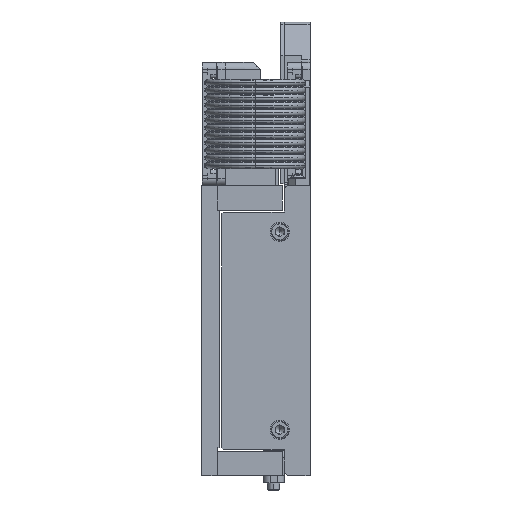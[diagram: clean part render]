
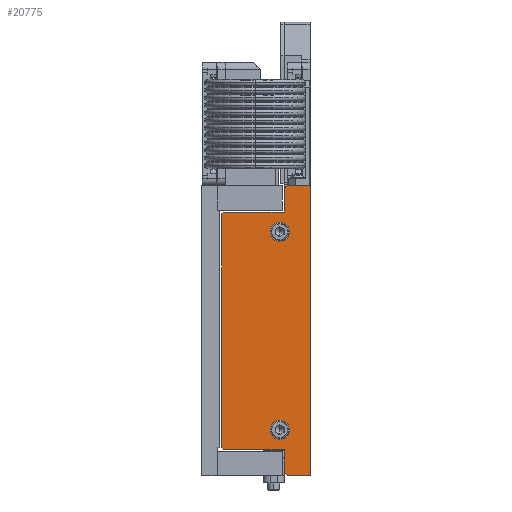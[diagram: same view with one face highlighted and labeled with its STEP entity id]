
A CAD part, left-side view. The second image highlights one B-rep face of the part: STEP entity #20775.
In plain terms, the highlighted planar face has unit normal (-1, 0, 0).
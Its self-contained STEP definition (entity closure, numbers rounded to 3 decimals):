
#3771 = CARTESIAN_POINT ( 'NONE',  ( -190., 49.5, -67.5 ) ) ;
#3835 = VECTOR ( 'NONE', #102717, 1000. ) ;
#4214 = EDGE_CURVE ( 'NONE', #57915, #60848, #41294, .T. ) ;
#4395 = EDGE_CURVE ( 'NONE', #97117, #28972, #5900, .T. ) ;
#5827 = LINE ( 'NONE', #94489, #105289 ) ;
#5900 = LINE ( 'NONE', #107159, #30515 ) ;
#6402 = DIRECTION ( 'NONE',  ( 0., 0., -1. ) ) ;
#6721 = DIRECTION ( 'NONE',  ( -1., 0., 0. ) ) ;
#7039 = CARTESIAN_POINT ( 'NONE',  ( -190., 49.5, 67.5 ) ) ;
#7810 = ORIENTED_EDGE ( 'NONE', *, *, #76760, .T. ) ;
#8677 = VECTOR ( 'NONE', #106838, 1000. ) ;
#9145 = CARTESIAN_POINT ( 'NONE',  ( -190., 50.5, -66.5 ) ) ;
#11874 = DIRECTION ( 'NONE',  ( -1., 0., 0. ) ) ;
#12170 = CARTESIAN_POINT ( 'NONE',  ( -190., 15., -80.55 ) ) ;
#12344 = DIRECTION ( 'NONE',  ( 0., -1., 0. ) ) ;
#12528 = AXIS2_PLACEMENT_3D ( 'NONE', #71352, #11874, #62998 ) ;
#12598 = LINE ( 'NONE', #3771, #90351 ) ;
#13195 = DIRECTION ( 'NONE',  ( 0., -1., 0. ) ) ;
#14566 = VERTEX_POINT ( 'NONE', #98406 ) ;
#14758 = DIRECTION ( 'NONE',  ( 1., 0., 0. ) ) ;
#15412 = CARTESIAN_POINT ( 'NONE',  ( -190., 15., 67.5 ) ) ;
#16903 = DIRECTION ( 'NONE',  ( 0., 0., -1. ) ) ;
#17272 = ORIENTED_EDGE ( 'NONE', *, *, #49519, .T. ) ;
#18380 = ORIENTED_EDGE ( 'NONE', *, *, #25438, .F. ) ;
#18697 = FACE_BOUND ( 'NONE', #63765, .T. ) ;
#18850 = EDGE_CURVE ( 'NONE', #14566, #41978, #87265, .T. ) ;
#20056 = AXIS2_PLACEMENT_3D ( 'NONE', #103120, #14758, #6402 ) ;
#20278 = EDGE_CURVE ( 'NONE', #87271, #53544, #51397, .T. ) ;
#20317 = DIRECTION ( 'NONE',  ( 0., 1., 0. ) ) ;
#20775 = ADVANCED_FACE ( 'NONE', ( #65101, #18697, #103143 ), #84176, .F. ) ;
#22226 = DIRECTION ( 'NONE',  ( -1., 0., 0. ) ) ;
#23133 = LINE ( 'NONE', #32467, #32670 ) ;
#23542 = AXIS2_PLACEMENT_3D ( 'NONE', #40646, #6721, #41008 ) ;
#24338 = ORIENTED_EDGE ( 'NONE', *, *, #26718, .T. ) ;
#25438 = EDGE_CURVE ( 'NONE', #60848, #57915, #97334, .T. ) ;
#26718 = EDGE_CURVE ( 'NONE', #95259, #97117, #5827, .T. ) ;
#28352 = VECTOR ( 'NONE', #16903, 1000. ) ;
#28972 = VERTEX_POINT ( 'NONE', #79094 ) ;
#30515 = VECTOR ( 'NONE', #20317, 1000. ) ;
#31028 = ORIENTED_EDGE ( 'NONE', *, *, #18850, .F. ) ;
#32467 = CARTESIAN_POINT ( 'NONE',  ( -190., 13.05, -82.5 ) ) ;
#32670 = VECTOR ( 'NONE', #75650, 1000. ) ;
#32907 = CARTESIAN_POINT ( 'NONE',  ( -190., 13.05, -82.5 ) ) ;
#33636 = CARTESIAN_POINT ( 'NONE',  ( -190., 15., 67.5 ) ) ;
#33887 = ORIENTED_EDGE ( 'NONE', *, *, #20278, .T. ) ;
#34139 = EDGE_CURVE ( 'NONE', #54776, #112602, #44132, .T. ) ;
#36387 = EDGE_LOOP ( 'NONE', ( #18380, #92319 ) ) ;
#36449 = CARTESIAN_POINT ( 'NONE',  ( -190., 15., -67.5 ) ) ;
#36537 = ORIENTED_EDGE ( 'NONE', *, *, #34139, .T. ) ;
#39874 = CARTESIAN_POINT ( 'NONE',  ( -190., 0.25, 82.5 ) ) ;
#40133 = EDGE_CURVE ( 'NONE', #62639, #95259, #63800, .T. ) ;
#40646 = CARTESIAN_POINT ( 'NONE',  ( -190., 17.5, 56.25 ) ) ;
#40873 = DIRECTION ( 'NONE',  ( 0., 0., 1. ) ) ;
#41008 = DIRECTION ( 'NONE',  ( 0., 0., 1. ) ) ;
#41294 = CIRCLE ( 'NONE', #42236, 5.5 ) ;
#41978 = VERTEX_POINT ( 'NONE', #63577 ) ;
#42173 = DIRECTION ( 'NONE',  ( 0., 0.707, -0.707 ) ) ;
#42236 = AXIS2_PLACEMENT_3D ( 'NONE', #93097, #22226, #40873 ) ;
#44132 = LINE ( 'NONE', #56189, #49616 ) ;
#44362 = ORIENTED_EDGE ( 'NONE', *, *, #49136, .F. ) ;
#47821 = AXIS2_PLACEMENT_3D ( 'NONE', #103409, #112908, #112165 ) ;
#48421 = ORIENTED_EDGE ( 'NONE', *, *, #103810, .T. ) ;
#48744 = VECTOR ( 'NONE', #13195, 1000. ) ;
#49136 = EDGE_CURVE ( 'NONE', #41978, #14566, #61471, .T. ) ;
#49519 = EDGE_CURVE ( 'NONE', #105588, #62639, #23133, .T. ) ;
#49616 = VECTOR ( 'NONE', #12344, 1000. ) ;
#51397 = LINE ( 'NONE', #102644, #71819 ) ;
#51976 = ORIENTED_EDGE ( 'NONE', *, *, #40133, .T. ) ;
#53544 = VERTEX_POINT ( 'NONE', #7039 ) ;
#53843 = ORIENTED_EDGE ( 'NONE', *, *, #95582, .T. ) ;
#54482 = ORIENTED_EDGE ( 'NONE', *, *, #4395, .T. ) ;
#54776 = VERTEX_POINT ( 'NONE', #81377 ) ;
#56189 = CARTESIAN_POINT ( 'NONE',  ( -190., 15., -67.5 ) ) ;
#56228 = EDGE_LOOP ( 'NONE', ( #24338, #54482, #48421, #84310, #33887, #101188, #67886, #7810, #36537, #53843, #17272, #51976 ) ) ;
#57819 = CARTESIAN_POINT ( 'NONE',  ( -190., 17.5, -61.75 ) ) ;
#57915 = VERTEX_POINT ( 'NONE', #57819 ) ;
#60494 = CARTESIAN_POINT ( 'NONE',  ( -190., 15., 80.55 ) ) ;
#60848 = VERTEX_POINT ( 'NONE', #88403 ) ;
#61471 = CIRCLE ( 'NONE', #47821, 5.5 ) ;
#62639 = VERTEX_POINT ( 'NONE', #32907 ) ;
#62998 = DIRECTION ( 'NONE',  ( 0., 0., 1. ) ) ;
#63577 = CARTESIAN_POINT ( 'NONE',  ( -190., 17.5, 61.75 ) ) ;
#63765 = EDGE_LOOP ( 'NONE', ( #44362, #31028 ) ) ;
#63800 = LINE ( 'NONE', #65479, #48744 ) ;
#64158 = LINE ( 'NONE', #15412, #81872 ) ;
#65101 = FACE_BOUND ( 'NONE', #36387, .T. ) ;
#65195 = VERTEX_POINT ( 'NONE', #82825 ) ;
#65243 = LINE ( 'NONE', #104468, #28352 ) ;
#65479 = CARTESIAN_POINT ( 'NONE',  ( -190., 0.25, -82.5 ) ) ;
#66915 = DIRECTION ( 'NONE',  ( 0., 0., -1. ) ) ;
#67886 = ORIENTED_EDGE ( 'NONE', *, *, #80272, .T. ) ;
#69413 = EDGE_CURVE ( 'NONE', #108403, #87271, #64158, .T. ) ;
#70077 = LINE ( 'NONE', #90135, #8677 ) ;
#70889 = CARTESIAN_POINT ( 'NONE',  ( -190., 15., 80.55 ) ) ;
#70983 = LINE ( 'NONE', #60494, #88708 ) ;
#71352 = CARTESIAN_POINT ( 'NONE',  ( -190., 17.5, -56.25 ) ) ;
#71819 = VECTOR ( 'NONE', #103011, 1000. ) ;
#72825 = DIRECTION ( 'NONE',  ( 0., -0.707, -0.707 ) ) ;
#75650 = DIRECTION ( 'NONE',  ( 0., -0.707, -0.707 ) ) ;
#76760 = EDGE_CURVE ( 'NONE', #98731, #54776, #12598, .T. ) ;
#78994 = LINE ( 'NONE', #94004, #3835 ) ;
#79094 = CARTESIAN_POINT ( 'NONE',  ( -190., 13.05, 82.5 ) ) ;
#79658 = EDGE_CURVE ( 'NONE', #53544, #65195, #78994, .T. ) ;
#80272 = EDGE_CURVE ( 'NONE', #65195, #98731, #65243, .T. ) ;
#81377 = CARTESIAN_POINT ( 'NONE',  ( -190., 49.5, -67.5 ) ) ;
#81872 = VECTOR ( 'NONE', #66915, 1000. ) ;
#82825 = CARTESIAN_POINT ( 'NONE',  ( -190., 50.5, 66.5 ) ) ;
#84176 = PLANE ( 'NONE',  #20056 ) ;
#84310 = ORIENTED_EDGE ( 'NONE', *, *, #69413, .T. ) ;
#87265 = CIRCLE ( 'NONE', #23542, 5.5 ) ;
#87271 = VERTEX_POINT ( 'NONE', #33636 ) ;
#88403 = CARTESIAN_POINT ( 'NONE',  ( -190., 17.5, -50.75 ) ) ;
#88708 = VECTOR ( 'NONE', #42173, 1000. ) ;
#90135 = CARTESIAN_POINT ( 'NONE',  ( -190., 15., -80.55 ) ) ;
#90351 = VECTOR ( 'NONE', #72825, 1000. ) ;
#92319 = ORIENTED_EDGE ( 'NONE', *, *, #4214, .F. ) ;
#93097 = CARTESIAN_POINT ( 'NONE',  ( -190., 17.5, -56.25 ) ) ;
#94004 = CARTESIAN_POINT ( 'NONE',  ( -190., 50.5, 66.5 ) ) ;
#94122 = DIRECTION ( 'NONE',  ( 0., 0., 1. ) ) ;
#94489 = CARTESIAN_POINT ( 'NONE',  ( -190., 0.25, 82.5 ) ) ;
#95259 = VERTEX_POINT ( 'NONE', #109932 ) ;
#95582 = EDGE_CURVE ( 'NONE', #112602, #105588, #70077, .T. ) ;
#97117 = VERTEX_POINT ( 'NONE', #39874 ) ;
#97334 = CIRCLE ( 'NONE', #12528, 5.5 ) ;
#98406 = CARTESIAN_POINT ( 'NONE',  ( -190., 17.5, 50.75 ) ) ;
#98731 = VERTEX_POINT ( 'NONE', #9145 ) ;
#101188 = ORIENTED_EDGE ( 'NONE', *, *, #79658, .T. ) ;
#102644 = CARTESIAN_POINT ( 'NONE',  ( -190., 49.5, 67.5 ) ) ;
#102717 = DIRECTION ( 'NONE',  ( 0., 0.707, -0.707 ) ) ;
#103011 = DIRECTION ( 'NONE',  ( 0., 1., 0. ) ) ;
#103120 = CARTESIAN_POINT ( 'NONE',  ( -190., 0., 0. ) ) ;
#103143 = FACE_OUTER_BOUND ( 'NONE', #56228, .T. ) ;
#103409 = CARTESIAN_POINT ( 'NONE',  ( -190., 17.5, 56.25 ) ) ;
#103810 = EDGE_CURVE ( 'NONE', #28972, #108403, #70983, .T. ) ;
#104468 = CARTESIAN_POINT ( 'NONE',  ( -190., 50.5, -66.5 ) ) ;
#105289 = VECTOR ( 'NONE', #94122, 1000. ) ;
#105588 = VERTEX_POINT ( 'NONE', #12170 ) ;
#106838 = DIRECTION ( 'NONE',  ( 0., 0., -1. ) ) ;
#107159 = CARTESIAN_POINT ( 'NONE',  ( -190., 13.05, 82.5 ) ) ;
#108403 = VERTEX_POINT ( 'NONE', #70889 ) ;
#109932 = CARTESIAN_POINT ( 'NONE',  ( -190., 0.25, -82.5 ) ) ;
#112165 = DIRECTION ( 'NONE',  ( 0., 0., 1. ) ) ;
#112602 = VERTEX_POINT ( 'NONE', #36449 ) ;
#112908 = DIRECTION ( 'NONE',  ( -1., 0., 0. ) ) ;
